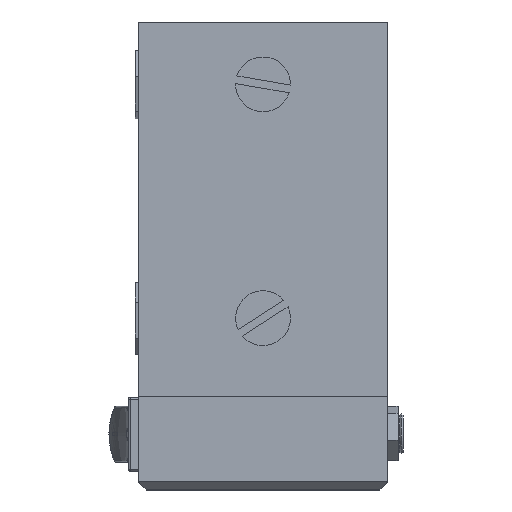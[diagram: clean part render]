
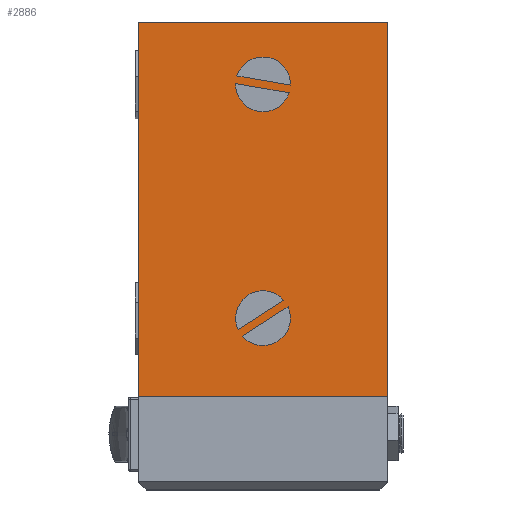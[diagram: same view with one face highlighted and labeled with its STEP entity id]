
A CAD part, top view. The second image highlights one B-rep face of the part: STEP entity #2886.
In plain terms, the highlighted planar face has unit normal (0, 0, 1).
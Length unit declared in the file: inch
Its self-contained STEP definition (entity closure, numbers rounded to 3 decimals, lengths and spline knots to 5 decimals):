
#20 = ORIENTED_EDGE ( 'NONE', *, *, #4708, .T. ) ;
#31 = EDGE_LOOP ( 'NONE', ( #3261, #4965 ) ) ;
#157 = DIRECTION ( 'NONE',  ( 1., 0., 0. ) ) ;
#409 = CARTESIAN_POINT ( 'NONE',  ( -1., -1.348, 1.016 ) ) ;
#414 = CARTESIAN_POINT ( 'NONE',  ( 0., -3.723, 1.016 ) ) ;
#431 = CARTESIAN_POINT ( 'NONE',  ( 0., -1.848, 1.016 ) ) ;
#443 = VERTEX_POINT ( 'NONE', #2181 ) ;
#446 = CARTESIAN_POINT ( 'NONE',  ( 1., -1.348, 1.016 ) ) ;
#448 = EDGE_CURVE ( 'Defeatured_0_13+Defeatured_0_12+Defeatured_0_16+Defeatured_0_33', #5831, #1129, #3743, .T. ) ;
#610 = ORIENTED_EDGE ( 'NONE', *, *, #2016, .F. ) ;
#615 = CARTESIAN_POINT ( 'NONE',  ( -1., -1.348, 1.016 ) ) ;
#625 = FACE_OUTER_BOUND ( 'NONE', #6371, .T. ) ;
#781 = AXIS2_PLACEMENT_3D ( 'NONE', #2166, #2700, #6437 ) ;
#938 = DIRECTION ( 'NONE',  ( -1., 0., 0. ) ) ;
#976 = DIRECTION ( 'NONE',  ( 0., 0., -1. ) ) ;
#979 = PLANE ( 'NONE',  #5556 ) ;
#1053 = VERTEX_POINT ( 'NONE', #5385 ) ;
#1115 = LINE ( 'NONE', #2759, #6453 ) ;
#1129 = VERTEX_POINT ( 'NONE', #4939 ) ;
#1132 = CIRCLE ( 'NONE', #781, 0.22 ) ;
#1164 = VECTOR ( 'NONE', #6271, 39.37008 ) ;
#1298 = DIRECTION ( 'NONE',  ( -0.986, 0.169, 0. ) ) ;
#1365 = VERTEX_POINT ( 'NONE', #5537 ) ;
#1449 = FACE_BOUND ( 'NONE', #3903, .T. ) ;
#1477 = CARTESIAN_POINT ( 'NONE',  ( 0., -3.723, 1.016 ) ) ;
#1509 = DIRECTION ( 'NONE',  ( 0., 0., -1. ) ) ;
#1593 = VERTEX_POINT ( 'NONE', #5775 ) ;
#1639 = DIRECTION ( 'NONE',  ( 0., -1., 0. ) ) ;
#1709 = LINE ( 'NONE', #6807, #6316 ) ;
#1753 = CIRCLE ( 'NONE', #4346, 0.22 ) ;
#1822 = LINE ( 'NONE', #446, #1164 ) ;
#1990 = VERTEX_POINT ( 'NONE', #3787 ) ;
#2016 = EDGE_CURVE ( 'Defeatured_0_7+Defeatured_0_13+Defeatured_0_13+Defeatured_0_13', #443, #2547, #2217, .T. ) ;
#2074 = EDGE_LOOP ( 'NONE', ( #2409, #2511 ) ) ;
#2097 = EDGE_CURVE ( 'Defeatured_0_6+Defeatured_0_13+Defeatured_0_13+Defeatured_0_13', #1053, #3365, #1709, .T. ) ;
#2166 = CARTESIAN_POINT ( 'NONE',  ( 0., -1.848, 1.016 ) ) ;
#2181 = CARTESIAN_POINT ( 'NONE',  ( -0.20023, -3.81415, 1.016 ) ) ;
#2213 = VERTEX_POINT ( 'NONE', #2480 ) ;
#2217 = LINE ( 'NONE', #6065, #6827 ) ;
#2326 = VECTOR ( 'NONE', #1639, 39.37008 ) ;
#2409 = ORIENTED_EDGE ( 'NONE', *, *, #3462, .F. ) ;
#2424 = CARTESIAN_POINT ( 'NONE',  ( 1., -4.348, 1.016 ) ) ;
#2480 = CARTESIAN_POINT ( 'NONE',  ( -0.21992, -1.84201, 1.016 ) ) ;
#2511 = ORIENTED_EDGE ( 'NONE', *, *, #2676, .T. ) ;
#2547 = VERTEX_POINT ( 'NONE', #5307 ) ;
#2605 = DIRECTION ( 'NONE',  ( 1., 0., 0. ) ) ;
#2676 = EDGE_CURVE ( 'Defeatured_0_13+Defeatured_0_5+Defeatured_0_5+Defeatured_0_5', #1593, #2213, #1132, .T. ) ;
#2700 = DIRECTION ( 'NONE',  ( 0., 0., -1. ) ) ;
#2759 = CARTESIAN_POINT ( 'NONE',  ( -1.06, -1.69799, 1.016 ) ) ;
#2820 = LINE ( 'NONE', #3468, #3487 ) ;
#2839 = VERTEX_POINT ( 'NONE', #2424 ) ;
#2868 = FACE_BOUND ( 'NONE', #31, .T. ) ;
#2886 = ADVANCED_FACE ( 'Defeatured_0_13', ( #1449, #5808, #2868, #4202, #625 ), #979, .F. ) ;
#2923 = VECTOR ( 'NONE', #4800, 39.37008 ) ;
#2936 = CARTESIAN_POINT ( 'NONE',  ( -0.16652, -3.86678, 1.016 ) ) ;
#2955 = ORIENTED_EDGE ( 'NONE', *, *, #5672, .F. ) ;
#2982 = DIRECTION ( 'NONE',  ( 0., 0., -1. ) ) ;
#3050 = DIRECTION ( 'NONE',  ( -1., 0., 0. ) ) ;
#3118 = ORIENTED_EDGE ( 'NONE', *, *, #6429, .F. ) ;
#3261 = ORIENTED_EDGE ( 'NONE', *, *, #2097, .F. ) ;
#3365 = VERTEX_POINT ( 'NONE', #2936 ) ;
#3401 = LINE ( 'NONE', #3727, #5262 ) ;
#3425 = EDGE_CURVE ( 'Defeatured_0_13+Defeatured_0_6+Defeatured_0_6+Defeatured_0_6', #1053, #3365, #5539, .T. ) ;
#3462 = EDGE_CURVE ( 'Defeatured_0_5+Defeatured_0_13+Defeatured_0_13+Defeatured_0_13', #1593, #2213, #1115, .T. ) ;
#3468 = CARTESIAN_POINT ( 'NONE',  ( -1., -1.348, 1.016 ) ) ;
#3487 = VECTOR ( 'NONE', #157, 39.37008 ) ;
#3679 = AXIS2_PLACEMENT_3D ( 'NONE', #1477, #976, #3050 ) ;
#3703 = CARTESIAN_POINT ( 'NONE',  ( -1.04944, -1.63639, 1.016 ) ) ;
#3719 = ORIENTED_EDGE ( 'NONE', *, *, #4957, .T. ) ;
#3727 = CARTESIAN_POINT ( 'NONE',  ( -1., -4.348, 1.016 ) ) ;
#3743 = LINE ( 'NONE', #4309, #2326 ) ;
#3787 = CARTESIAN_POINT ( 'NONE',  ( 1., -1.348, 1.016 ) ) ;
#3903 = EDGE_LOOP ( 'NONE', ( #4958, #3719 ) ) ;
#4133 = DIRECTION ( 'NONE',  ( -1., 0., 0. ) ) ;
#4202 = FACE_BOUND ( 'NONE', #5789, .T. ) ;
#4223 = CARTESIAN_POINT ( 'NONE',  ( -0.20936, -1.7804, 1.016 ) ) ;
#4309 = CARTESIAN_POINT ( 'NONE',  ( -1., -1.348, 1.016 ) ) ;
#4346 = AXIS2_PLACEMENT_3D ( 'NONE', #414, #6265, #4133 ) ;
#4630 = AXIS2_PLACEMENT_3D ( 'NONE', #431, #2982, #5644 ) ;
#4708 = EDGE_CURVE ( 'Defeatured_0_13+Defeatured_0_7+Defeatured_0_7+Defeatured_0_7', #443, #2547, #1753, .T. ) ;
#4800 = DIRECTION ( 'NONE',  ( 0.986, -0.169, 0. ) ) ;
#4939 = CARTESIAN_POINT ( 'NONE',  ( -1., -4.348, 1.016 ) ) ;
#4957 = EDGE_CURVE ( 'Defeatured_0_13+Defeatured_0_4+Defeatured_0_4+Defeatured_0_4', #5160, #1365, #6443, .T. ) ;
#4958 = ORIENTED_EDGE ( 'NONE', *, *, #5159, .F. ) ;
#4965 = ORIENTED_EDGE ( 'NONE', *, *, #3425, .T. ) ;
#4993 = ORIENTED_EDGE ( 'NONE', *, *, #448, .T. ) ;
#5159 = EDGE_CURVE ( 'Defeatured_0_4+Defeatured_0_13+Defeatured_0_13+Defeatured_0_13', #5160, #1365, #5350, .T. ) ;
#5160 = VERTEX_POINT ( 'NONE', #4223 ) ;
#5262 = VECTOR ( 'NONE', #2605, 39.37008 ) ;
#5307 = CARTESIAN_POINT ( 'NONE',  ( 0.16652, -3.57922, 1.016 ) ) ;
#5350 = LINE ( 'NONE', #3703, #2923 ) ;
#5385 = CARTESIAN_POINT ( 'NONE',  ( 0.20023, -3.63185, 1.016 ) ) ;
#5511 = DIRECTION ( 'NONE',  ( 0.842, 0.539, 0. ) ) ;
#5537 = CARTESIAN_POINT ( 'NONE',  ( 0.21992, -1.85399, 1.016 ) ) ;
#5539 = CIRCLE ( 'NONE', #3679, 0.22 ) ;
#5556 = AXIS2_PLACEMENT_3D ( 'NONE', #409, #1509, #938 ) ;
#5644 = DIRECTION ( 'NONE',  ( -1., 0., 0. ) ) ;
#5672 = EDGE_CURVE ( 'Defeatured_0_14+Defeatured_0_13+Defeatured_0_16+Defeatured_0_21', #1990, #2839, #1822, .T. ) ;
#5775 = CARTESIAN_POINT ( 'NONE',  ( 0.20936, -1.9156, 1.016 ) ) ;
#5789 = EDGE_LOOP ( 'NONE', ( #610, #20 ) ) ;
#5808 = FACE_BOUND ( 'NONE', #2074, .T. ) ;
#5831 = VERTEX_POINT ( 'NONE', #615 ) ;
#6065 = CARTESIAN_POINT ( 'NONE',  ( 0.35281, -3.45989, 1.016 ) ) ;
#6077 = ORIENTED_EDGE ( 'NONE', *, *, #6270, .T. ) ;
#6265 = DIRECTION ( 'NONE',  ( 0., 0., -1. ) ) ;
#6270 = EDGE_CURVE ( 'Defeatured_0_13+Defeatured_0_33+Defeatured_0_12+Defeatured_0_14', #1129, #2839, #3401, .T. ) ;
#6271 = DIRECTION ( 'NONE',  ( 0., -1., 0. ) ) ;
#6316 = VECTOR ( 'NONE', #6745, 39.37008 ) ;
#6371 = EDGE_LOOP ( 'NONE', ( #6077, #2955, #3118, #4993 ) ) ;
#6429 = EDGE_CURVE ( 'Defeatured_0_16+Defeatured_0_13+Defeatured_0_12+Defeatured_0_14', #5831, #1990, #2820, .T. ) ;
#6437 = DIRECTION ( 'NONE',  ( -1., 0., 0. ) ) ;
#6443 = CIRCLE ( 'NONE', #4630, 0.22 ) ;
#6453 = VECTOR ( 'NONE', #1298, 39.37008 ) ;
#6745 = DIRECTION ( 'NONE',  ( -0.842, -0.539, 0. ) ) ;
#6807 = CARTESIAN_POINT ( 'NONE',  ( 0.38652, -3.51252, 1.016 ) ) ;
#6827 = VECTOR ( 'NONE', #5511, 39.37008 ) ;
